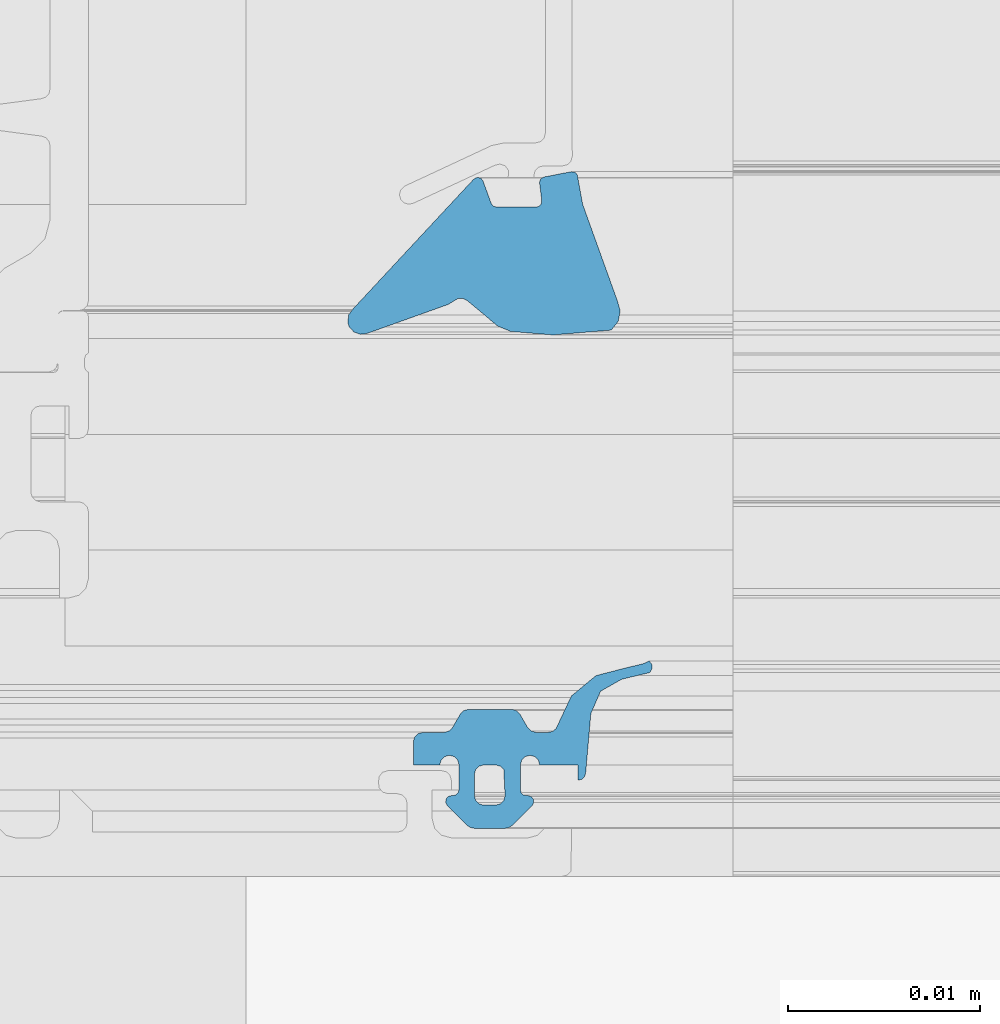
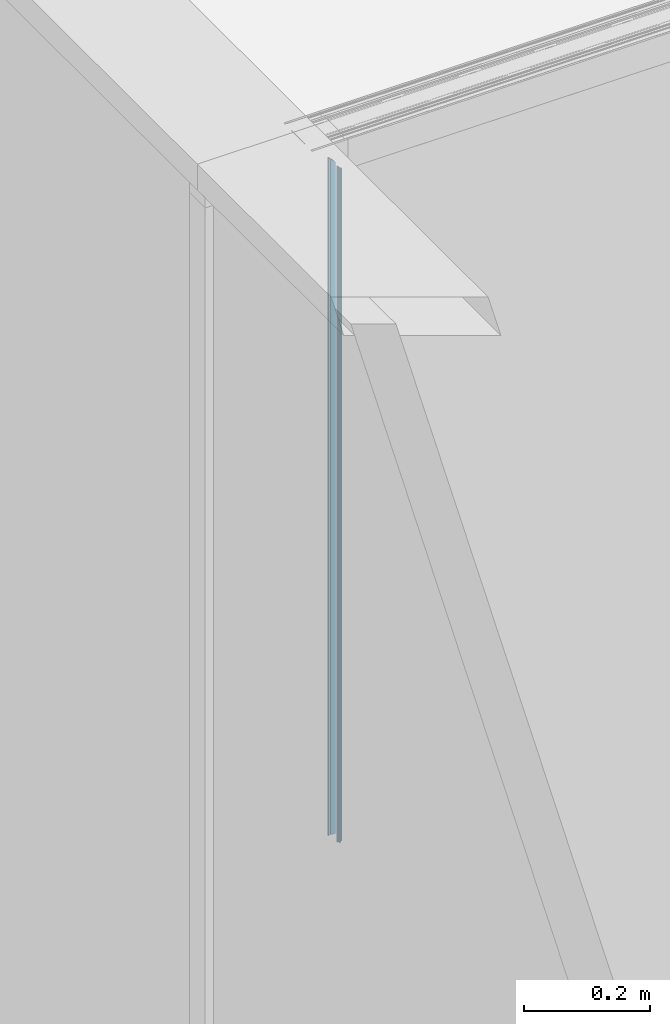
# One storey, part 16 of 69: 1 building element part, 2 elements without a shape of their own.
"""IFC2X3 building model written with IfcOpenShell, lengths in millimetres."""

from ifc_helpers import new_model, entity, si_unit, converted_unit, derived_unit, money_unit, direction, frame, origin_with_axes, place, context, subcontext, project, spatial, faceted_brep, material, type_object, element, aggregate, save


model = new_model("IFC2X3")

# Units and contexts
model_context = context("Model", 3, precision=0.01, world=origin_with_axes(), true_north=direction((0.0, 1.0)))
body_context = subcontext(model_context, "Body", "Model", "MODEL_VIEW")
ifc_project = project(units=[si_unit("LENGTHUNIT", "METRE", prefix="MILLI"), si_unit("AREAUNIT", "SQUARE_METRE"), si_unit("VOLUMEUNIT", "CUBIC_METRE"), converted_unit("PLANEANGLEUNIT", "DEGREE", entity("IfcPlaneAngleMeasure", 0.0174532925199), si_unit("PLANEANGLEUNIT", "RADIAN"), dimensions=[0, 0, 0, 0, 0, 0, 0]), si_unit("SOLIDANGLEUNIT", "STERADIAN"), money_unit("EUR"), converted_unit("TIMEUNIT", "Year", entity("IfcTimeMeasure", 31556926.0), si_unit("TIMEUNIT", "SECOND"), dimensions=[0, 0, 1, 0, 0, 0, 0]), si_unit("MASSUNIT", "GRAM", prefix="KILO"), si_unit("THERMODYNAMICTEMPERATUREUNIT", "DEGREE_CELSIUS"), si_unit("LUMINOUSINTENSITYUNIT", "LUMEN"), si_unit("ENERGYUNIT", "JOULE", prefix="MEGA"), derived_unit("THERMALCONDUCTANCEUNIT", [(si_unit("POWERUNIT", "WATT"), 1), (si_unit("LENGTHUNIT", "METRE"), -1), (si_unit("THERMODYNAMICTEMPERATUREUNIT", "KELVIN"), -1)]), derived_unit("SPECIFICHEATCAPACITYUNIT", [(si_unit("ENERGYUNIT", "JOULE"), 1), (si_unit("MASSUNIT", "GRAM", prefix="KILO"), -1), (si_unit("THERMODYNAMICTEMPERATUREUNIT", "KELVIN"), -1)]), derived_unit("MASSDENSITYUNIT", [(si_unit("MASSUNIT", "GRAM", prefix="KILO"), 1), (si_unit("VOLUMEUNIT", "CUBIC_METRE"), -1)])], contexts=[model_context])

# Site, building, storey
site_placement = place(None, origin_with_axes())
site = spatial("IfcSite", under=ifc_project, at=site_placement, Name="Puškini 31, Narva", CompositionType="ELEMENT")
building_placement = place(site_placement, origin_with_axes())
building = spatial("IfcBuilding", under=site, at=building_placement, Name="Narva Riigigümnaasium", CompositionType="ELEMENT")
storey_placement = place(building_placement, origin_with_axes())
storey = spatial("IfcBuildingStorey", under=building, at=storey_placement, Name="1.korrus 0.00", CompositionType="ELEMENT", Elevation=0.0)

# Curtain wall, member, building element part
curtain_wall_type = type_object("IfcCurtainWallType", Name="Curtain Wall Type", PredefinedType="NOTDEFINED")
curtain_wall_placement = place(storey_placement, frame((18229.9603698, 152620.000001, -0.397158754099), z_axis=(0.0, 0.0, 1.0), x_axis=(1.0, 0.0, 0.0)))
curtain_wall = element("IfcCurtainWall", 1, at=curtain_wall_placement, inside=storey, type_object=curtain_wall_type, Name="G-KLF-01-1")
member_type = type_object("IfcMemberType", Name="61 x 45", PredefinedType="MULLION")
member_placement = place(curtain_wall_placement, frame((-2170.96034334, 0.0, 2400.00003439), z_axis=(0.0, 0.0, 1.0), x_axis=(1.0, 0.0, 0.0)))
member = element("IfcMember", 2, at=member_placement, type_object=member_type, Name="G-SKLF-09-raam", ObjectType="MULLION")
aggregate(curtain_wall, [member])
ifc_material = material(Name="Membraan - Veekindel")
building_element_part_placement = place(member_placement, origin_with_axes())
building_element_part = element("IfcBuildingElementPart", 3, at=building_element_part_placement, material=ifc_material, Name="Membraan - Veekindel", context=body_context, shape_type="Brep", body=[
    faceted_brep([(61.0413385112, -34.3890442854, 0.0), (61.0413385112, -34.3890442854, 1299.3557468), (59.5800222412, -34.73794757, 1300.81706307), (59.5800222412, -34.73794757, 0.0), (61.1536677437, -34.1934467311, 0.0), (61.1536677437, -34.1934467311, 1299.24341757), (61.1423164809, -33.9681748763, 1299.25476883), (61.0108941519, -33.784859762, 1299.38619116), (60.7381535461, -33.9217644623, 1299.65893177), (59.8409257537, -34.1343131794, 1300.55615956), (58.2346494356, -34.5489145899, 1302.16243588), (56.9567944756, -35.6067920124, 1303.44029084), (56.2495873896, -37.1074172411, 1304.14749792), (56.1542959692, -37.3107917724, 1304.24278935), (55.9795989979, -37.4519392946, 1304.41748632), (55.7607444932, -37.5023809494, 1304.63634082), (55.1093263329, -37.5023809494, 1305.28775898), (54.8593263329, -37.4353936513, 1305.53775898), (54.676313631, -37.2523809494, 1305.72077168), (54.2721684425, -36.5523809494, 1306.12491687), (54.0891557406, -36.3693682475, 1306.30792957), (53.8391557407, -36.3023809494, 1306.55792957), (51.602145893, -36.3023809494, 1308.79493942), (51.352145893, -36.3693682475, 1309.04493942), (51.1691331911, -36.5523809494, 1309.22795212), (50.7649880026, -37.2523809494, 1309.63209731), (50.5819753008, -37.4353936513, 1309.81511001), (50.3319753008, -37.5023809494, 1310.06511001), (49.2206527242, -37.5023809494, 1311.17643259), (48.9706527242, -37.5693682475, 1311.42643259), (48.7876400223, -37.7523809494, 1311.60944529), (48.7206527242, -38.0023809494, 1311.67643259), (48.7206527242, -39.1999494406, 1311.67643259), (50.10004, -39.1999494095, 1310.29704531), (50.1670287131, -38.9499497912, 1310.2300566), (50.3500424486, -38.7669381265, 1310.04704287), (50.6000428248, -38.699952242, 1309.79704249), (50.8500424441, -38.7669409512, 1309.54704287), (51.0330541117, -38.9499546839, 1309.3640312), (51.10004, -39.1999550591, 1309.29704531), (51.10004, -40.4999366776, 1309.29704531), (51.0598476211, -40.6499366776, 1309.33723769), (50.95004, -40.7597442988, 1309.44704531), (50.80004, -40.7999366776, 1309.59704531), (50.7000457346, -40.7999366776, 1309.69703958), (50.5334025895, -40.8504763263, 1309.86368272), (50.4229059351, -40.9850671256, 1309.97417938), (50.4057850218, -41.1583618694, 1309.99130029), (50.4878083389, -41.3119729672, 1309.90927698), (51.5281601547, -42.3533311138, 1308.86892516), (51.6904310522, -42.4618421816, 1308.70665426), (51.8818844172, -42.4999486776, 1308.5152009), (53.517932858, -42.4999486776, 1306.87915246), (53.7093558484, -42.4618547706, 1306.68772947), (53.8716106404, -42.3533776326, 1306.52547467), (54.9122350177, -41.3120206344, 1305.4848503), (54.9942836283, -41.1584047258, 1305.40280169), (54.9771753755, -40.9850924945, 1305.41990994), (54.866675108, -40.850483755, 1305.53041021), (54.7000173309, -40.7999366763, 1305.69706798), (54.6000210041, -40.7999366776, 1305.79706431), (54.4500210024, -40.7597443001, 1305.94706431), (54.3402133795, -40.6499366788, 1306.05687193), (54.300021, -40.4999366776, 1306.09706431), (54.300021, -39.1999606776, 1306.09706431), (54.3670082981, -38.9499606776, 1306.03007702), (54.5500210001, -38.7669479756, 1305.84706431), (54.8000210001, -38.6999606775, 1305.59706431), (55.0500210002, -38.7669479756, 1305.34706431), (55.2330337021, -38.9499606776, 1305.16405161), (55.3000210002, -39.1999606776, 1305.09706431), (57.3000022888, -39.1999494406, 1303.09708303), (57.3000022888, -39.9999846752, 1303.09708303), (57.5000161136, -39.9463912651, 1302.8970692), (57.6464370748, -39.7999717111, 1302.75064824), (57.7000324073, -39.5999584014, 1302.69705291), (57.9693613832, -36.5265882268, 1302.42772393), (58.4755028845, -35.3628499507, 1301.92158243), (53.5000340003, -40.7999553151, 1306.89705131), (53.4330491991, -41.0499459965, 1306.96403612), (53.2500433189, -41.2329518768, 1307.147042), (53.0000526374, -41.299936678, 1307.39703268), (52.4000083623, -41.299936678, 1307.99707695), (52.150017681, -41.2329518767, 1308.24706763), (51.9670118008, -41.0499459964, 1308.43007351), (51.9000269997, -40.799955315, 1308.49705831), (51.9000269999, -39.6999268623, 1308.49705831), (51.9670129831, -39.4499317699, 1308.43007233), (52.1500220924, -39.2669226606, 1308.24706322), (52.4000171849, -39.1999366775, 1307.99706813), (53.0000438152, -39.1999366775, 1307.3970415), (53.2500389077, -39.2669226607, 1307.14704641), (53.433048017, -39.44993177, 1306.9640373), (58.4755028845, -35.3628499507, 0.0), (57.9693613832, -36.5265882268, 0.0), (57.7000324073, -39.5999584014, 0.0), (57.6464370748, -39.7999717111, 0.0), (57.5000161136, -39.9463912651, 0.0), (57.3000022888, -39.9999846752, 0.0), (57.3000022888, -39.1999494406, 0.0), (55.3000210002, -39.1999606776, 0.0), (55.2330337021, -38.9499606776, 0.0), (55.0500210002, -38.7669479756, 0.0), (54.8000210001, -38.6999606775, 0.0), (54.5500210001, -38.7669479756, 0.0), (54.3670082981, -38.9499606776, 0.0), (54.300021, -39.1999606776, 0.0), (54.300021, -40.4999366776, 0.0), (54.3402133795, -40.6499366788, 0.0), (54.4500210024, -40.7597443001, 0.0), (54.6000210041, -40.7999366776, 0.0), (54.7000173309, -40.7999366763, 0.0), (54.866675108, -40.850483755, 0.0), (54.9771753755, -40.9850924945, 0.0), (54.9942836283, -41.1584047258, 0.0), (54.9122350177, -41.3120206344, 0.0), (53.8716106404, -42.3533776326, 0.0), (53.7093558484, -42.4618547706, 0.0), (53.517932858, -42.4999486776, 0.0), (51.8818844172, -42.4999486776, 0.0), (51.6904310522, -42.4618421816, 0.0), (51.5281601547, -42.3533311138, 0.0), (50.4878083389, -41.3119729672, 0.0), (50.4057850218, -41.1583618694, 0.0), (50.4229059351, -40.9850671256, 0.0), (50.5334025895, -40.8504763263, 0.0), (50.7000457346, -40.7999366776, 0.0), (50.80004, -40.7999366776, 0.0), (50.95004, -40.7597442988, 0.0), (51.0598476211, -40.6499366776, 0.0), (51.10004, -40.4999366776, 0.0), (51.10004, -39.1999550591, 0.0), (51.0330541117, -38.9499546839, 0.0), (50.8500424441, -38.7669409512, 0.0), (50.6000428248, -38.699952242, 0.0), (50.3500424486, -38.7669381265, 0.0), (50.1670287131, -38.9499497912, 0.0), (50.10004, -39.1999494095, 0.0), (48.7206527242, -39.1999494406, 0.0), (48.7206527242, -38.0023809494, 0.0), (48.7876400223, -37.7523809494, 0.0), (48.9706527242, -37.5693682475, 0.0), (49.2206527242, -37.5023809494, 0.0), (50.3319753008, -37.5023809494, 0.0), (50.5819753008, -37.4353936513, 0.0), (50.7649880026, -37.2523809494, 0.0), (51.1691331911, -36.5523809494, 0.0), (51.352145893, -36.3693682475, 0.0), (51.602145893, -36.3023809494, 0.0), (53.8391557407, -36.3023809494, 0.0), (54.0891557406, -36.3693682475, 0.0), (54.2721684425, -36.5523809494, 0.0), (54.676313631, -37.2523809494, 0.0), (54.8593263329, -37.4353936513, 0.0), (55.1093263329, -37.5023809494, 0.0), (55.7607444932, -37.5023809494, 0.0), (55.9795989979, -37.4519392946, 0.0), (56.1542959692, -37.3107917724, 0.0), (56.2495873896, -37.1074172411, 0.0), (56.9567944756, -35.6067920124, 0.0), (58.2346494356, -34.5489145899, 0.0), (59.8409257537, -34.1343131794, 0.0), (60.7381535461, -33.9217644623, 0.0), (61.0108941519, -33.784859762, 0.0), (61.1423164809, -33.9681748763, 0.0), (53.5000340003, -40.7999553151, 0.0), (53.433048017, -39.44993177, 0.0), (53.2500389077, -39.2669226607, 0.0), (53.0000438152, -39.1999366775, 0.0), (52.4000171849, -39.1999366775, 0.0), (52.1500220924, -39.2669226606, 0.0), (51.9670129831, -39.4499317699, 0.0), (51.9000269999, -39.6999268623, 0.0), (51.9000269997, -40.799955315, 0.0), (51.9670118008, -41.0499459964, 0.0), (52.150017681, -41.2329518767, 0.0), (52.4000083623, -41.299936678, 0.0), (53.0000526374, -41.299936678, 0.0), (53.2500433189, -41.2329518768, 0.0), (53.4330491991, -41.0499459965, 0.0)], [[[0, 1, 2, 3]], [[4, 5, 1, 0]], [[1, 5, 6, 7, 8, 9, 10, 11, 12, 13, 14, 15, 16, 17, 18, 19, 20, 21, 22, 23, 24, 25, 26, 27, 28, 29, 30, 31, 32, 33, 34, 35, 36, 37, 38, 39, 40, 41, 42, 43, 44, 45, 46, 47, 48, 49, 50, 51, 52, 53, 54, 55, 56, 57, 58, 59, 60, 61, 62, 63, 64, 65, 66, 67, 68, 69, 70, 71, 72, 73, 74, 75, 76, 77, 2], [78, 79, 80, 81, 82, 83, 84, 85, 86, 87, 88, 89, 90, 91, 92]], [[3, 2, 77, 93]], [[0, 3, 93, 94, 95, 96, 97, 98, 99, 100, 101, 102, 103, 104, 105, 106, 107, 108, 109, 110, 111, 112, 113, 114, 115, 116, 117, 118, 119, 120, 121, 122, 123, 124, 125, 126, 127, 128, 129, 130, 131, 132, 133, 134, 135, 136, 137, 138, 139, 140, 141, 142, 143, 144, 145, 146, 147, 148, 149, 150, 151, 152, 153, 154, 155, 156, 157, 158, 159, 160, 161, 162, 163, 164, 4], [165, 166, 167, 168, 169, 170, 171, 172, 173, 174, 175, 176, 177, 178, 179]], [[164, 6, 5, 4]], [[163, 7, 6, 164]], [[162, 8, 7, 163]], [[161, 9, 8, 162]], [[160, 10, 9, 161]], [[159, 11, 10, 160]], [[158, 12, 11, 159]], [[157, 13, 12, 158]], [[156, 14, 13, 157]], [[155, 15, 14, 156]], [[154, 16, 15, 155]], [[153, 17, 16, 154]], [[152, 18, 17, 153]], [[151, 19, 18, 152]], [[150, 20, 19, 151]], [[149, 21, 20, 150]], [[148, 22, 21, 149]], [[147, 23, 22, 148]], [[146, 24, 23, 147]], [[145, 25, 24, 146]], [[144, 26, 25, 145]], [[143, 27, 26, 144]], [[142, 28, 27, 143]], [[141, 29, 28, 142]], [[140, 30, 29, 141]], [[139, 31, 30, 140]], [[138, 32, 31, 139]], [[137, 33, 32, 138]], [[136, 34, 33, 137]], [[135, 35, 34, 136]], [[134, 36, 35, 135]], [[133, 37, 36, 134]], [[132, 38, 37, 133]], [[131, 39, 38, 132]], [[130, 40, 39, 131]], [[129, 41, 40, 130]], [[128, 42, 41, 129]], [[127, 43, 42, 128]], [[126, 44, 43, 127]], [[125, 45, 44, 126]], [[124, 46, 45, 125]], [[123, 47, 46, 124]], [[122, 48, 47, 123]], [[121, 49, 48, 122]], [[120, 50, 49, 121]], [[119, 51, 50, 120]], [[118, 52, 51, 119]], [[117, 53, 52, 118]], [[116, 54, 53, 117]], [[115, 55, 54, 116]], [[114, 56, 55, 115]], [[113, 57, 56, 114]], [[112, 58, 57, 113]], [[111, 59, 58, 112]], [[110, 60, 59, 111]], [[109, 61, 60, 110]], [[108, 62, 61, 109]], [[107, 63, 62, 108]], [[106, 64, 63, 107]], [[105, 65, 64, 106]], [[104, 66, 65, 105]], [[103, 67, 66, 104]], [[102, 68, 67, 103]], [[101, 69, 68, 102]], [[100, 70, 69, 101]], [[99, 71, 70, 100]], [[98, 72, 71, 99]], [[97, 73, 72, 98]], [[96, 74, 73, 97]], [[95, 75, 74, 96]], [[94, 76, 75, 95]], [[93, 77, 76, 94]], [[179, 79, 78, 165]], [[178, 80, 79, 179]], [[177, 81, 80, 178]], [[176, 82, 81, 177]], [[175, 83, 82, 176]], [[174, 84, 83, 175]], [[173, 85, 84, 174]], [[172, 86, 85, 173]], [[171, 87, 86, 172]], [[170, 88, 87, 171]], [[169, 89, 88, 170]], [[168, 90, 89, 169]], [[167, 91, 90, 168]], [[166, 92, 91, 167]], [[165, 78, 92, 166]]]),
    faceted_brep([(59.0307115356, -16.554149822, 0.0), (59.0307115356, -16.554149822, 1301.36637378), (55.9926715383, -16.8063498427, 1304.40441378), (55.9926715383, -16.8063498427, 0.0), (59.3884652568, -16.1092618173, 0.0), (59.3884652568, -16.1092618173, 1301.00862006), (59.5001582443, -15.5494067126, 1300.89692707), (59.3405112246, -15.0012955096, 1301.05657409), (57.5418652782, -10.0035930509, 1302.85522004), (57.2632233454, -8.46932121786, 1303.13386197), (57.1824204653, -8.36745448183, 1303.21466485), (57.0661058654, -8.3093438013, 1303.33097945), (56.9361285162, -8.30590490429, 1303.4609568), (55.5361285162, -8.57803733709, 1304.8609568), (55.4168250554, -8.6299735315, 1304.98026026), (55.3307332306, -8.7275382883, 1305.06635208), (55.2940485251, -8.85237785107, 1305.10303679), (55.4099827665, -9.81272116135, 1304.98710255), (55.3838261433, -9.97808311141, 1305.01325917), (55.2731258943, -10.1036784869, 1305.12395942), (55.1123574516, -10.1503930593, 1305.28472786), (53.0580290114, -10.1503930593, 1307.3390563), (52.8859560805, -10.0961386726, 1307.51112923), (52.7761212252, -9.95299910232, 1307.62096409), (52.3556584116, -8.79778701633, 1308.0414269), (52.2574645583, -8.66326410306, 1308.13962076), (52.1026310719, -8.60190419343, 1308.29445424), (51.938943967, -8.6326446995, 1308.45814135), (51.8169217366, -8.74599822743, 1308.58016358), (45.6142070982, -15.4144760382, 1314.78287822), (45.3418968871, -15.7688623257, 1315.05518843), (45.3195226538, -16.2152275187, 1315.07756266), (45.3889077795, -16.3899097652, 1315.00817753), (45.6241929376, -16.6482027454, 1314.77289238), (45.950966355, -16.7718696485, 1314.44611896), (46.298307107, -16.7340705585, 1314.09877821), (50.5536994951, -15.2121179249, 1309.84338582), (50.8437237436, -15.0307134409, 1309.55336157), (51.0558924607, -14.9074036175, 1309.34119285), (51.3011765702, -14.8998814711, 1309.09590874), (51.5205025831, -15.0099586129, 1308.87658273), (53.1225200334, -16.3483062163, 1307.27456528), (53.7899070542, -16.6230039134, 1306.60717826), (53.7899070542, -16.6230039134, 0.0), (53.1225200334, -16.3483062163, 0.0), (51.5205025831, -15.0099586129, 0.0), (51.3011765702, -14.8998814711, 0.0), (51.0558924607, -14.9074036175, 0.0), (50.8437237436, -15.0307134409, 0.0), (50.5536994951, -15.2121179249, 0.0), (46.298307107, -16.7340705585, 0.0), (45.950966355, -16.7718696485, 0.0), (45.6241929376, -16.6482027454, 0.0), (45.3889077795, -16.3899097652, 0.0), (45.3195226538, -16.2152275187, 0.0), (45.3418968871, -15.7688623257, 0.0), (45.6142070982, -15.4144760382, 0.0), (51.8169217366, -8.74599822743, 0.0), (51.938943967, -8.6326446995, 0.0), (52.1026310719, -8.60190419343, 0.0), (52.2574645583, -8.66326410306, 0.0), (52.3556584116, -8.79778701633, 0.0), (52.7761212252, -9.95299910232, 0.0), (52.8859560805, -10.0961386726, 0.0), (53.0580290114, -10.1503930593, 0.0), (55.1123574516, -10.1503930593, 0.0), (55.2731258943, -10.1036784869, 0.0), (55.3838261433, -9.97808311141, 0.0), (55.4099827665, -9.81272116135, 0.0), (55.2940485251, -8.85237785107, 0.0), (55.3307332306, -8.7275382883, 0.0), (55.4168250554, -8.6299735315, 0.0), (55.5361285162, -8.57803733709, 0.0), (56.9361285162, -8.30590490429, 0.0), (57.0661058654, -8.3093438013, 0.0), (57.1824204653, -8.36745448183, 0.0), (57.2632233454, -8.46932121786, 0.0), (57.5418652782, -10.0035930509, 0.0), (59.3405112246, -15.0012955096, 0.0), (59.5001582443, -15.5494067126, 0.0)], [[[0, 1, 2, 3]], [[4, 5, 1, 0]], [[1, 5, 6, 7, 8, 9, 10, 11, 12, 13, 14, 15, 16, 17, 18, 19, 20, 21, 22, 23, 24, 25, 26, 27, 28, 29, 30, 31, 32, 33, 34, 35, 36, 37, 38, 39, 40, 41, 42, 2]], [[3, 2, 42, 43]], [[0, 3, 43, 44, 45, 46, 47, 48, 49, 50, 51, 52, 53, 54, 55, 56, 57, 58, 59, 60, 61, 62, 63, 64, 65, 66, 67, 68, 69, 70, 71, 72, 73, 74, 75, 76, 77, 78, 79, 4]], [[79, 6, 5, 4]], [[78, 7, 6, 79]], [[77, 8, 7, 78]], [[76, 9, 8, 77]], [[75, 10, 9, 76]], [[74, 11, 10, 75]], [[73, 12, 11, 74]], [[72, 13, 12, 73]], [[71, 14, 13, 72]], [[70, 15, 14, 71]], [[69, 16, 15, 70]], [[68, 17, 16, 69]], [[67, 18, 17, 68]], [[66, 19, 18, 67]], [[65, 20, 19, 66]], [[64, 21, 20, 65]], [[63, 22, 21, 64]], [[62, 23, 22, 63]], [[61, 24, 23, 62]], [[60, 25, 24, 61]], [[59, 26, 25, 60]], [[58, 27, 26, 59]], [[57, 28, 27, 58]], [[56, 29, 28, 57]], [[55, 30, 29, 56]], [[54, 31, 30, 55]], [[53, 32, 31, 54]], [[52, 33, 32, 53]], [[51, 34, 33, 52]], [[50, 35, 34, 51]], [[49, 36, 35, 50]], [[48, 37, 36, 49]], [[47, 38, 37, 48]], [[46, 39, 38, 47]], [[45, 40, 39, 46]], [[44, 41, 40, 45]], [[43, 42, 41, 44]]]),
])
aggregate(member, [building_element_part])

save(model, "model.ifc")
